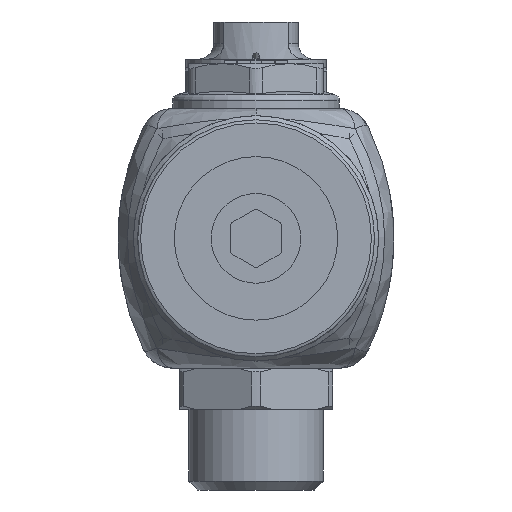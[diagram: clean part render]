
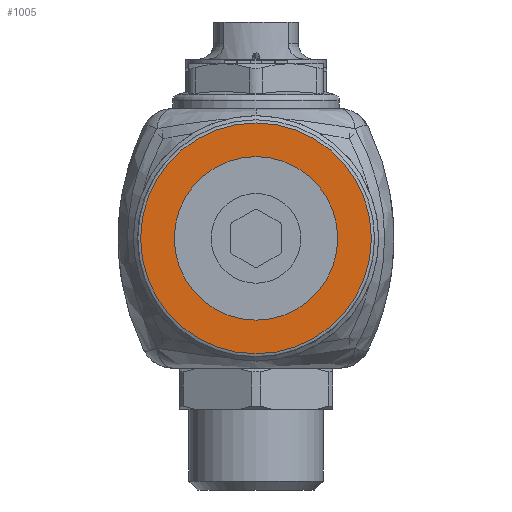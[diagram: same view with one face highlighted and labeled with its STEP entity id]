
A CAD part, front view. The second image highlights one B-rep face of the part: STEP entity #1005.
In plain terms, the highlighted planar face has unit normal (0, -1, 0).
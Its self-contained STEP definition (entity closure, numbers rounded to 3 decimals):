
#1005=ADVANCED_FACE('',(#19854,#19856),#19858,.F.);
#19854=FACE_BOUND('',#19855,.T.);
#19855=EDGE_LOOP('',(#25630));
#19856=FACE_BOUND('',#19857,.T.);
#19857=EDGE_LOOP('',(#25631));
#19858=PLANE('',#19859);
#19859=AXIS2_PLACEMENT_3D('',#19860,#19861,#19862);
#19860=CARTESIAN_POINT('',(0.,-345.75,0.));
#19861=DIRECTION('',(0.,1.,0.));
#19862=DIRECTION('',(-1.,0.,0.));
#25630=ORIENTED_EDGE('',*,*,#28318,.T.);
#25631=ORIENTED_EDGE('',*,*,#28342,.T.);
#28318=EDGE_CURVE('',#32463,#32463,#32464,.T.);
#28342=EDGE_CURVE('',#32500,#32500,#32501,.F.);
#32463=VERTEX_POINT('',#58020);
#32464=CIRCLE('',#58021,18.);
#32500=VERTEX_POINT('',#58108);
#32501=CIRCLE('',#58109,12.75);
#58020=CARTESIAN_POINT('',(18.,-345.75,0.));
#58021=AXIS2_PLACEMENT_3D('',#58022,#58023,#58024);
#58022=CARTESIAN_POINT('',(0.,-345.75,0.));
#58023=DIRECTION('',(0.,-1.,0.));
#58024=DIRECTION('',(1.,0.,0.));
#58108=CARTESIAN_POINT('',(12.75,-345.75,0.));
#58109=AXIS2_PLACEMENT_3D('',#58110,#58111,#58112);
#58110=CARTESIAN_POINT('',(0.,-345.75,0.));
#58111=DIRECTION('',(0.,-1.,0.));
#58112=DIRECTION('',(1.,0.,0.));
